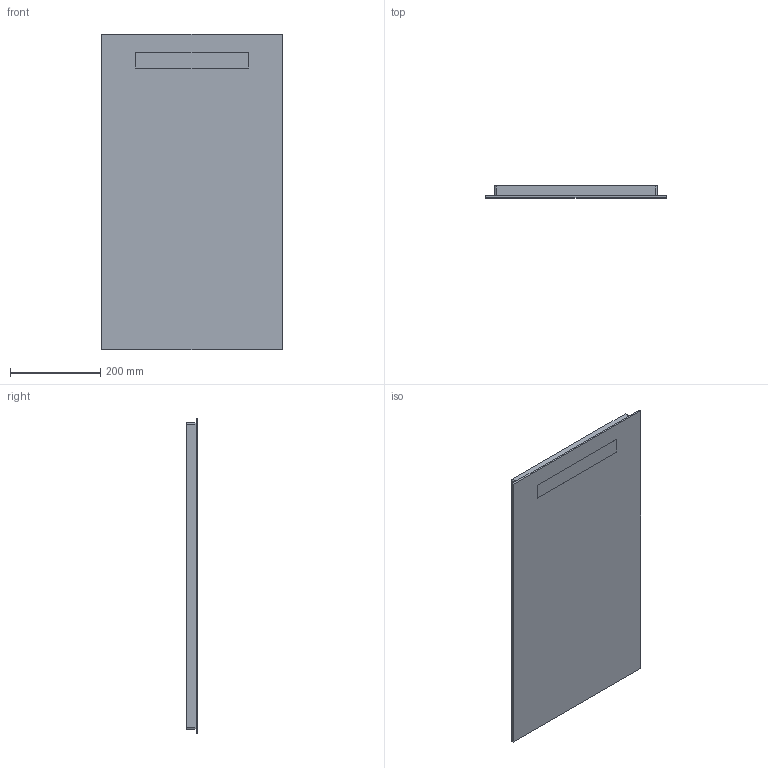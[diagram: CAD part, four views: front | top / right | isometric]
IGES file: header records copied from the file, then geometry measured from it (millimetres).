
Global section: file name: 502803; native system: Autodesk Inventor 2021; preprocessor: unknown; author: JANAN; date: 20221202.150905; units: millimetre
Bounding box: 400 x 26 x 700 mm (x, y, z)
Volume: 6502543.9 mm3; surface area: 1105093.9 mm2
Topology: 2 solids, 2 shells, 29 faces, 68 edges, 48 vertices
Faces by surface type: bspline 29
